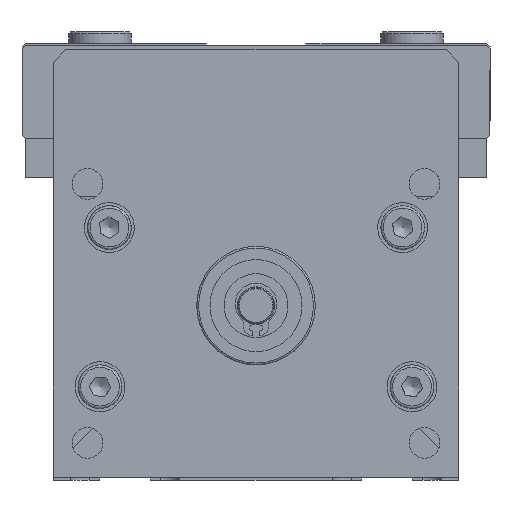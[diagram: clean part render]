
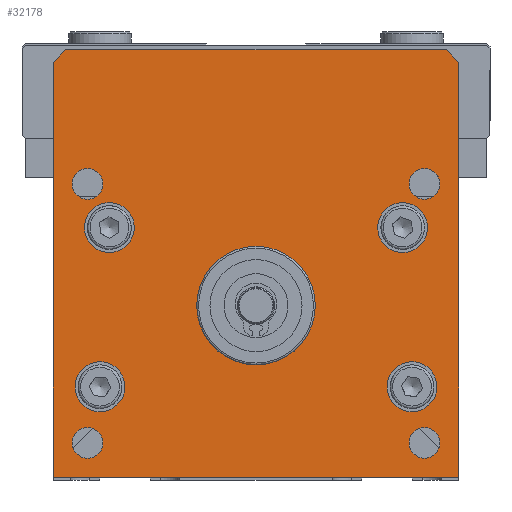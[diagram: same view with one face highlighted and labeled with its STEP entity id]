
A CAD part, left-side view. The second image highlights one B-rep face of the part: STEP entity #32178.
In plain terms, the highlighted planar face has unit normal (-1, 0, 0).
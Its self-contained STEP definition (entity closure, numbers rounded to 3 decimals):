
#73=FACE_BOUND('',#4465,.T.);
#74=FACE_BOUND('',#4466,.T.);
#75=FACE_BOUND('',#4467,.T.);
#76=FACE_BOUND('',#4468,.T.);
#77=FACE_BOUND('',#4469,.T.);
#78=FACE_BOUND('',#4470,.T.);
#79=FACE_BOUND('',#4471,.T.);
#80=FACE_BOUND('',#4472,.T.);
#81=FACE_BOUND('',#4473,.T.);
#1097=PLANE('',#34314);
#2686=FACE_OUTER_BOUND('',#4464,.T.);
#4464=EDGE_LOOP('',(#23891,#23892,#23893,#23894,#23895,#23896));
#4465=EDGE_LOOP('',(#23897));
#4466=EDGE_LOOP('',(#23898));
#4467=EDGE_LOOP('',(#23899));
#4468=EDGE_LOOP('',(#23900));
#4469=EDGE_LOOP('',(#23901));
#4470=EDGE_LOOP('',(#23902));
#4471=EDGE_LOOP('',(#23903));
#4472=EDGE_LOOP('',(#23904));
#4473=EDGE_LOOP('',(#23905));
#6309=CIRCLE('',#34301,4.);
#6310=CIRCLE('',#34303,9.5);
#6311=CIRCLE('',#34305,4.);
#6312=CIRCLE('',#34307,4.);
#6313=CIRCLE('',#34309,4.);
#6317=CIRCLE('',#34315,2.459);
#6318=CIRCLE('',#34316,2.459);
#6319=CIRCLE('',#34317,2.459);
#6320=CIRCLE('',#34318,2.459);
#7082=LINE('',#46248,#11054);
#7083=LINE('',#46250,#11055);
#7084=LINE('',#46252,#11056);
#7085=LINE('',#46254,#11057);
#7086=LINE('',#46256,#11058);
#7087=LINE('',#46257,#11059);
#11054=VECTOR('',#37579,66.5);
#11055=VECTOR('',#37580,2.828);
#11056=VECTOR('',#37581,61.);
#11057=VECTOR('',#37582,2.828);
#11058=VECTOR('',#37583,66.5);
#11059=VECTOR('',#37584,65.);
#15059=VERTEX_POINT('',#46220);
#15060=VERTEX_POINT('',#46224);
#15061=VERTEX_POINT('',#46228);
#15062=VERTEX_POINT('',#46232);
#15063=VERTEX_POINT('',#46236);
#15066=VERTEX_POINT('',#46246);
#15067=VERTEX_POINT('',#46247);
#15068=VERTEX_POINT('',#46249);
#15069=VERTEX_POINT('',#46251);
#15070=VERTEX_POINT('',#46253);
#15071=VERTEX_POINT('',#46255);
#15072=VERTEX_POINT('',#46258);
#15073=VERTEX_POINT('',#46260);
#15074=VERTEX_POINT('',#46262);
#15075=VERTEX_POINT('',#46264);
#18435=EDGE_CURVE('',#15059,#15059,#6309,.T.);
#18437=EDGE_CURVE('',#15060,#15060,#6310,.T.);
#18439=EDGE_CURVE('',#15061,#15061,#6311,.T.);
#18441=EDGE_CURVE('',#15062,#15062,#6312,.T.);
#18443=EDGE_CURVE('',#15063,#15063,#6313,.T.);
#18447=EDGE_CURVE('',#15066,#15067,#7082,.T.);
#18448=EDGE_CURVE('',#15067,#15068,#7083,.T.);
#18449=EDGE_CURVE('',#15068,#15069,#7084,.T.);
#18450=EDGE_CURVE('',#15069,#15070,#7085,.T.);
#18451=EDGE_CURVE('',#15070,#15071,#7086,.T.);
#18452=EDGE_CURVE('',#15071,#15066,#7087,.T.);
#18453=EDGE_CURVE('',#15072,#15072,#6317,.T.);
#18454=EDGE_CURVE('',#15073,#15073,#6318,.T.);
#18455=EDGE_CURVE('',#15074,#15074,#6319,.T.);
#18456=EDGE_CURVE('',#15075,#15075,#6320,.T.);
#23891=ORIENTED_EDGE('',*,*,#18447,.T.);
#23892=ORIENTED_EDGE('',*,*,#18448,.T.);
#23893=ORIENTED_EDGE('',*,*,#18449,.T.);
#23894=ORIENTED_EDGE('',*,*,#18450,.T.);
#23895=ORIENTED_EDGE('',*,*,#18451,.T.);
#23896=ORIENTED_EDGE('',*,*,#18452,.T.);
#23897=ORIENTED_EDGE('',*,*,#18443,.T.);
#23898=ORIENTED_EDGE('',*,*,#18453,.T.);
#23899=ORIENTED_EDGE('',*,*,#18441,.T.);
#23900=ORIENTED_EDGE('',*,*,#18454,.T.);
#23901=ORIENTED_EDGE('',*,*,#18439,.T.);
#23902=ORIENTED_EDGE('',*,*,#18455,.T.);
#23903=ORIENTED_EDGE('',*,*,#18437,.T.);
#23904=ORIENTED_EDGE('',*,*,#18435,.T.);
#23905=ORIENTED_EDGE('',*,*,#18456,.T.);
#32178=ADVANCED_FACE('',(#2686,#73,#74,#75,#76,#77,#78,#79,#80,#81),#1097,
 .T.);
#34301=AXIS2_PLACEMENT_3D('',#46222,#37547,#37548);
#34303=AXIS2_PLACEMENT_3D('',#46226,#37552,#37553);
#34305=AXIS2_PLACEMENT_3D('',#46230,#37557,#37558);
#34307=AXIS2_PLACEMENT_3D('',#46234,#37562,#37563);
#34309=AXIS2_PLACEMENT_3D('',#46238,#37567,#37568);
#34314=AXIS2_PLACEMENT_3D('',#46245,#37577,#37578);
#34315=AXIS2_PLACEMENT_3D('',#46259,#37585,#37586);
#34316=AXIS2_PLACEMENT_3D('',#46261,#37587,#37588);
#34317=AXIS2_PLACEMENT_3D('',#46263,#37589,#37590);
#34318=AXIS2_PLACEMENT_3D('',#46265,#37591,#37592);
#37547=DIRECTION('center_axis',(1.,0.,0.));
#37548=DIRECTION('ref_axis',(0.,-1.,0.));
#37552=DIRECTION('center_axis',(1.,0.,0.));
#37553=DIRECTION('ref_axis',(0.,0.,1.));
#37557=DIRECTION('center_axis',(1.,0.,0.));
#37558=DIRECTION('ref_axis',(0.,-1.,0.));
#37562=DIRECTION('center_axis',(1.,0.,0.));
#37563=DIRECTION('ref_axis',(0.,-1.,0.));
#37567=DIRECTION('center_axis',(1.,0.,0.));
#37568=DIRECTION('ref_axis',(0.,-1.,0.));
#37577=DIRECTION('center_axis',(-1.,0.,0.));
#37578=DIRECTION('ref_axis',(0.,0.,1.));
#37579=DIRECTION('',(0.,0.,1.));
#37580=DIRECTION('',(0.,0.707,0.707));
#37581=DIRECTION('',(0.,1.,0.));
#37582=DIRECTION('',(0.,0.707,-0.707));
#37583=DIRECTION('',(0.,0.,-1.));
#37584=DIRECTION('',(0.,-1.,0.));
#37585=DIRECTION('center_axis',(1.,0.,0.));
#37586=DIRECTION('ref_axis',(0.,1.,0.));
#37587=DIRECTION('center_axis',(1.,0.,0.));
#37588=DIRECTION('ref_axis',(0.,1.,0.));
#37589=DIRECTION('center_axis',(1.,0.,0.));
#37590=DIRECTION('ref_axis',(0.,1.,0.));
#37591=DIRECTION('center_axis',(1.,0.,0.));
#37592=DIRECTION('ref_axis',(0.,1.,0.));
#46220=CARTESIAN_POINT('',(-180.,-24.675,44.323));
#46222=CARTESIAN_POINT('Origin',(-180.,-23.5,40.5));
#46224=CARTESIAN_POINT('',(-180.,0.,18.5));
#46226=CARTESIAN_POINT('Origin',(-180.,0.,28.));
#46228=CARTESIAN_POINT('',(-180.,22.325,44.323));
#46230=CARTESIAN_POINT('Origin',(-180.,23.5,40.5));
#46232=CARTESIAN_POINT('',(-180.,23.825,18.823));
#46234=CARTESIAN_POINT('Origin',(-180.,25.,15.));
#46236=CARTESIAN_POINT('',(-180.,-26.175,18.823));
#46238=CARTESIAN_POINT('Origin',(-180.,-25.,15.));
#46245=CARTESIAN_POINT('Origin',(-180.,0.,34.441));
#46246=CARTESIAN_POINT('',(-180.,-32.5,0.5));
#46247=CARTESIAN_POINT('',(-180.,-32.5,67.));
#46248=CARTESIAN_POINT('',(-180.,-32.5,0.5));
#46249=CARTESIAN_POINT('',(-180.,-30.5,69.));
#46250=CARTESIAN_POINT('',(-180.,-32.5,67.));
#46251=CARTESIAN_POINT('',(-180.,30.5,69.));
#46252=CARTESIAN_POINT('',(-180.,-30.5,69.));
#46253=CARTESIAN_POINT('',(-180.,32.5,67.));
#46254=CARTESIAN_POINT('',(-180.,30.5,69.));
#46255=CARTESIAN_POINT('',(-180.,32.5,0.5));
#46256=CARTESIAN_POINT('',(-180.,32.5,67.));
#46257=CARTESIAN_POINT('',(-180.,32.5,0.5));
#46258=CARTESIAN_POINT('',(-180.,-26.278,8.35));
#46259=CARTESIAN_POINT('Origin',(-180.,-27.,6.));
#46260=CARTESIAN_POINT('',(-180.,27.722,8.35));
#46261=CARTESIAN_POINT('Origin',(-180.,27.,6.));
#46262=CARTESIAN_POINT('',(-180.,27.722,49.85));
#46263=CARTESIAN_POINT('Origin',(-180.,27.,47.5));
#46264=CARTESIAN_POINT('',(-180.,-26.278,49.85));
#46265=CARTESIAN_POINT('Origin',(-180.,-27.,47.5));
